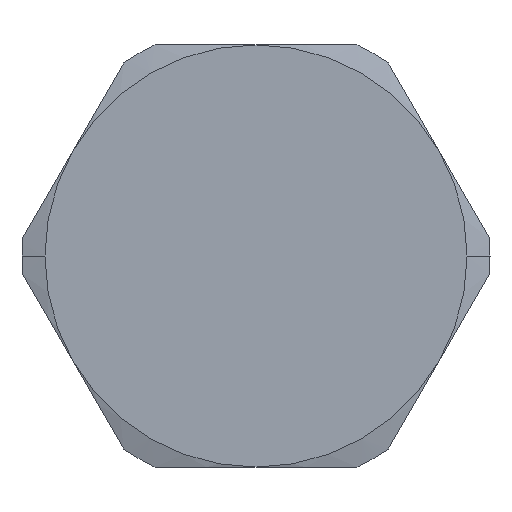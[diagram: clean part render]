
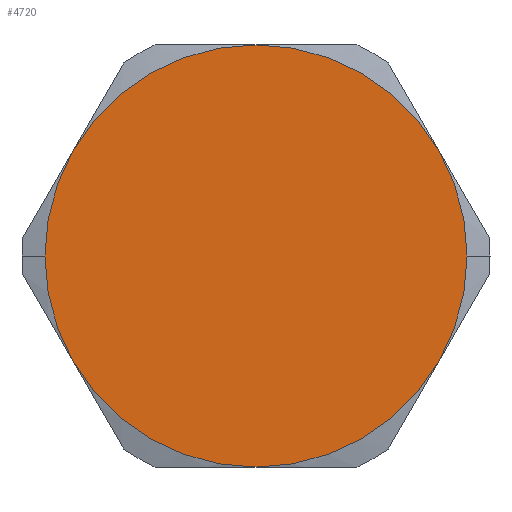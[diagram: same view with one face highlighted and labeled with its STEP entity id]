
A CAD part, left-side view. The second image highlights one B-rep face of the part: STEP entity #4720.
In plain terms, the highlighted planar face has unit normal (-1, 0, 0).
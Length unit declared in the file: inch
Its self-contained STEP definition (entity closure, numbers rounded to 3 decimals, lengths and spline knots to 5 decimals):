
#2754=CARTESIAN_POINT('',(-0.251,-0.4375,0.));
#2755=VERTEX_POINT('',#2754);
#2762=CARTESIAN_POINT('',(-0.251,-0.37889,-0.21875));
#2763=VERTEX_POINT('',#2762);
#2764=CARTESIAN_POINT('',(-0.251,0.0,0.0));
#2765=DIRECTION('',(-1.0,0.0,0.0));
#2766=DIRECTION('',(0.0,1.0,0.0));
#2767=AXIS2_PLACEMENT_3D('',#2764,#2765,#2766);
#2768=CIRCLE('',#2767,0.4375);
#2769=EDGE_CURVE('',#2763,#2755,#2768,.T.);
#2793=CARTESIAN_POINT('',(-0.251,0.4375,0.));
#2794=VERTEX_POINT('',#2793);
#2810=CARTESIAN_POINT('',(-0.251,0.37889,-0.21875));
#2811=VERTEX_POINT('',#2810);
#2825=CARTESIAN_POINT('',(-0.251,0.0,0.0));
#2826=DIRECTION('',(-1.0,0.0,0.0));
#2827=DIRECTION('',(0.0,1.0,0.0));
#2828=AXIS2_PLACEMENT_3D('',#2825,#2826,#2827);
#2829=CIRCLE('',#2828,0.4375);
#2830=EDGE_CURVE('',#2794,#2811,#2829,.T.);
#4267=CARTESIAN_POINT('',(-0.251,0.0,-0.4375));
#4268=VERTEX_POINT('',#4267);
#4282=CARTESIAN_POINT('',(-0.251,0.0,0.0));
#4283=DIRECTION('',(-1.0,0.0,0.0));
#4284=DIRECTION('',(0.0,1.0,0.0));
#4285=AXIS2_PLACEMENT_3D('',#4282,#4283,#4284);
#4286=CIRCLE('',#4285,0.4375);
#4287=EDGE_CURVE('',#2811,#4268,#4286,.T.);
#4298=CARTESIAN_POINT('',(-0.251,0.37889,0.21875));
#4299=VERTEX_POINT('',#4298);
#4300=CARTESIAN_POINT('',(-0.251,0.0,0.0));
#4301=DIRECTION('',(-1.0,0.0,0.0));
#4302=DIRECTION('',(0.0,1.0,0.0));
#4303=AXIS2_PLACEMENT_3D('',#4300,#4301,#4302);
#4304=CIRCLE('',#4303,0.4375);
#4305=EDGE_CURVE('',#4299,#2794,#4304,.T.);
#4329=CARTESIAN_POINT('',(-0.251,0.0,0.4375));
#4330=VERTEX_POINT('',#4329);
#4367=CARTESIAN_POINT('',(-0.251,0.0,0.0));
#4368=DIRECTION('',(-1.0,0.0,0.0));
#4369=DIRECTION('',(0.0,1.0,0.0));
#4370=AXIS2_PLACEMENT_3D('',#4367,#4368,#4369);
#4371=CIRCLE('',#4370,0.4375);
#4372=EDGE_CURVE('',#4330,#4299,#4371,.T.);
#4397=CARTESIAN_POINT('',(-0.251,-0.37889,0.21875));
#4398=VERTEX_POINT('',#4397);
#4399=CARTESIAN_POINT('',(-0.251,0.0,0.0));
#4400=DIRECTION('',(-1.0,0.0,0.0));
#4401=DIRECTION('',(0.0,1.0,0.0));
#4402=AXIS2_PLACEMENT_3D('',#4399,#4400,#4401);
#4403=CIRCLE('',#4402,0.4375);
#4404=EDGE_CURVE('',#4398,#4330,#4403,.T.);
#4458=CARTESIAN_POINT('',(-0.251,0.0,0.0));
#4459=DIRECTION('',(-1.0,0.0,0.0));
#4460=DIRECTION('',(0.0,1.0,0.0));
#4461=AXIS2_PLACEMENT_3D('',#4458,#4459,#4460);
#4462=CIRCLE('',#4461,0.4375);
#4463=EDGE_CURVE('',#2755,#4398,#4462,.T.);
#4488=CARTESIAN_POINT('',(-0.251,0.0,0.0));
#4489=DIRECTION('',(-1.0,0.0,0.0));
#4490=DIRECTION('',(0.0,1.0,0.0));
#4491=AXIS2_PLACEMENT_3D('',#4488,#4489,#4490);
#4492=CIRCLE('',#4491,0.4375);
#4493=EDGE_CURVE('',#4268,#2763,#4492,.T.);
#4705=CARTESIAN_POINT('',(-0.251,0.,0.));
#4706=DIRECTION('',(-1.0,0.0,0.0));
#4707=DIRECTION('',(0.0,-1.0,0.0));
#4708=AXIS2_PLACEMENT_3D('',#4705,#4706,#4707);
#4709=PLANE('',#4708);
#4710=ORIENTED_EDGE('',*,*,#4493,.T.);
#4711=ORIENTED_EDGE('',*,*,#2769,.T.);
#4712=ORIENTED_EDGE('',*,*,#4463,.T.);
#4713=ORIENTED_EDGE('',*,*,#4404,.T.);
#4714=ORIENTED_EDGE('',*,*,#4372,.T.);
#4715=ORIENTED_EDGE('',*,*,#4305,.T.);
#4716=ORIENTED_EDGE('',*,*,#2830,.T.);
#4717=ORIENTED_EDGE('',*,*,#4287,.T.);
#4718=EDGE_LOOP('',(#4710,#4711,#4712,#4713,#4714,#4715,#4716,#4717));
#4719=FACE_OUTER_BOUND('',#4718,.T.);
#4720=ADVANCED_FACE('',(#4719),#4709,.T.);
